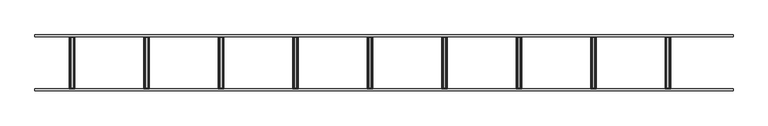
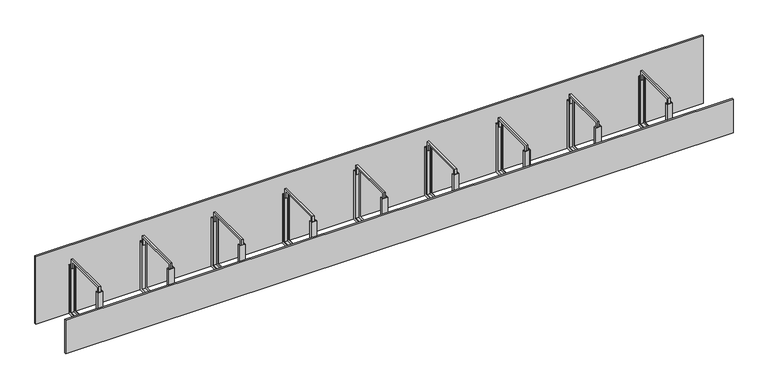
"""IFC4 building model written with IfcOpenShell, lengths in millimetres: proxy geometry, Betobeam ABM : -."""

from ifc_helpers import new_model, si_unit, frame, origin, origin_with_axes, place, context, project, spatial, polyline, outline, extrude, faceted_brep, source, transform, mapped, element, save


def generic_models_2878a8e8(model_context):
    return source(origin(), model_context, "Body", "SolidModel", [
        extrude(outline(polyline([(285.0, 320.0), (285.0, 270.0), (275.0, 270.0), (275.0, 310.0), (25.0, 310.0), (25.0, 270.0), (15.0, 270.0), (15.0, 320.0), (285.0, 320.0)])), frame((3395.0, 0.0, 0.0), z_axis=(1.0, 0.0, 0.0), x_axis=(0.0, 1.0, 0.0)), (0.0, 0.0, 1.0), 10.0),
        faceted_brep([(3385.0, 290.0, 290.0), (3385.0, 275.0, 290.0), (3387.0, 275.0, 290.0), (3387.0, 288.0, 290.0), (3413.0, 288.0, 290.0), (3413.0, 275.0, 290.0), (3415.0, 275.0, 290.0), (3415.0, 290.0, 290.0), (3385.0, 290.0, 0.0), (3385.0, 10.0, 0.0), (3385.0, 10.0, 290.0), (3385.0, 25.0, 290.0), (3385.0, 25.0, 15.0), (3385.0, 275.0, 15.0), (3387.0, 275.0, 15.0), (3387.0, 25.0, 15.0), (3387.0, 25.0, 290.0), (3387.0, 12.0, 290.0), (3387.0, 12.0, 2.0), (3387.0, 288.0, 2.0), (3413.0, 288.0, 2.0), (3413.0, 12.0, 2.0), (3413.0, 12.0, 290.0), (3413.0, 25.0, 290.0), (3413.0, 25.0, 15.0), (3413.0, 275.0, 15.0), (3415.0, 275.0, 15.0), (3415.0, 25.0, 15.0), (3415.0, 25.0, 290.0), (3415.0, 10.0, 290.0), (3415.0, 10.0, 0.0), (3415.0, 290.0, 0.0)], [[[0, 1, 2, 3, 4, 5, 6, 7]], [[1, 0, 8, 9, 10, 11, 12, 13]], [[2, 1, 13, 14]], [[3, 2, 14, 15, 16, 17, 18, 19]], [[4, 3, 19, 20]], [[5, 4, 20, 21, 22, 23, 24, 25]], [[6, 5, 25, 26]], [[7, 6, 26, 27, 28, 29, 30, 31]], [[0, 7, 31, 8]], [[14, 13, 12, 15]], [[20, 19, 18, 21]], [[26, 25, 24, 27]], [[8, 31, 30, 9]], [[10, 29, 28, 23, 22, 17, 16, 11]], [[15, 12, 11, 16]], [[21, 18, 17, 22]], [[27, 24, 23, 28]], [[9, 30, 29, 10]]]),
        extrude(outline(polyline([(285.0, 320.0), (285.0, 270.0), (275.0, 270.0), (275.0, 310.0), (25.0, 310.0), (25.0, 270.0), (15.0, 270.0), (15.0, 320.0), (285.0, 320.0)])), frame((2995.0, 0.0, 0.0), z_axis=(1.0, 0.0, 0.0), x_axis=(0.0, 1.0, 0.0)), (0.0, 0.0, 1.0), 10.0),
        faceted_brep([(2985.0, 290.0, 290.0), (2985.0, 275.0, 290.0), (2987.0, 275.0, 290.0), (2987.0, 288.0, 290.0), (3013.0, 288.0, 290.0), (3013.0, 275.0, 290.0), (3015.0, 275.0, 290.0), (3015.0, 290.0, 290.0), (2985.0, 290.0, 0.0), (2985.0, 10.0, 0.0), (2985.0, 10.0, 290.0), (2985.0, 25.0, 290.0), (2985.0, 25.0, 15.0), (2985.0, 275.0, 15.0), (2987.0, 275.0, 15.0), (2987.0, 25.0, 15.0), (2987.0, 25.0, 290.0), (2987.0, 12.0, 290.0), (2987.0, 12.0, 2.0), (2987.0, 288.0, 2.0), (3013.0, 288.0, 2.0), (3013.0, 12.0, 2.0), (3013.0, 12.0, 290.0), (3013.0, 25.0, 290.0), (3013.0, 25.0, 15.0), (3013.0, 275.0, 15.0), (3015.0, 275.0, 15.0), (3015.0, 25.0, 15.0), (3015.0, 25.0, 290.0), (3015.0, 10.0, 290.0), (3015.0, 10.0, 0.0), (3015.0, 290.0, 0.0)], [[[0, 1, 2, 3, 4, 5, 6, 7]], [[1, 0, 8, 9, 10, 11, 12, 13]], [[2, 1, 13, 14]], [[3, 2, 14, 15, 16, 17, 18, 19]], [[4, 3, 19, 20]], [[5, 4, 20, 21, 22, 23, 24, 25]], [[6, 5, 25, 26]], [[7, 6, 26, 27, 28, 29, 30, 31]], [[0, 7, 31, 8]], [[14, 13, 12, 15]], [[20, 19, 18, 21]], [[26, 25, 24, 27]], [[8, 31, 30, 9]], [[10, 29, 28, 23, 22, 17, 16, 11]], [[15, 12, 11, 16]], [[21, 18, 17, 22]], [[27, 24, 23, 28]], [[9, 30, 29, 10]]]),
        extrude(outline(polyline([(285.0, 320.0), (285.0, 270.0), (275.0, 270.0), (275.0, 310.0), (25.0, 310.0), (25.0, 270.0), (15.0, 270.0), (15.0, 320.0), (285.0, 320.0)])), frame((2595.0, 0.0, 0.0), z_axis=(1.0, 0.0, 0.0), x_axis=(0.0, 1.0, 0.0)), (0.0, 0.0, 1.0), 10.0),
        faceted_brep([(2585.0, 290.0, 290.0), (2585.0, 275.0, 290.0), (2587.0, 275.0, 290.0), (2587.0, 288.0, 290.0), (2613.0, 288.0, 290.0), (2613.0, 275.0, 290.0), (2615.0, 275.0, 290.0), (2615.0, 290.0, 290.0), (2585.0, 290.0, 0.0), (2585.0, 10.0, 0.0), (2585.0, 10.0, 290.0), (2585.0, 25.0, 290.0), (2585.0, 25.0, 15.0), (2585.0, 275.0, 15.0), (2587.0, 275.0, 15.0), (2587.0, 25.0, 15.0), (2587.0, 25.0, 290.0), (2587.0, 12.0, 290.0), (2587.0, 12.0, 2.0), (2587.0, 288.0, 2.0), (2613.0, 288.0, 2.0), (2613.0, 12.0, 2.0), (2613.0, 12.0, 290.0), (2613.0, 25.0, 290.0), (2613.0, 25.0, 15.0), (2613.0, 275.0, 15.0), (2615.0, 275.0, 15.0), (2615.0, 25.0, 15.0), (2615.0, 25.0, 290.0), (2615.0, 10.0, 290.0), (2615.0, 10.0, 0.0), (2615.0, 290.0, 0.0)], [[[0, 1, 2, 3, 4, 5, 6, 7]], [[1, 0, 8, 9, 10, 11, 12, 13]], [[2, 1, 13, 14]], [[3, 2, 14, 15, 16, 17, 18, 19]], [[4, 3, 19, 20]], [[5, 4, 20, 21, 22, 23, 24, 25]], [[6, 5, 25, 26]], [[7, 6, 26, 27, 28, 29, 30, 31]], [[0, 7, 31, 8]], [[14, 13, 12, 15]], [[20, 19, 18, 21]], [[26, 25, 24, 27]], [[8, 31, 30, 9]], [[10, 29, 28, 23, 22, 17, 16, 11]], [[15, 12, 11, 16]], [[21, 18, 17, 22]], [[27, 24, 23, 28]], [[9, 30, 29, 10]]]),
        extrude(outline(polyline([(285.0, 320.0), (285.0, 270.0), (275.0, 270.0), (275.0, 310.0), (25.0, 310.0), (25.0, 270.0), (15.0, 270.0), (15.0, 320.0), (285.0, 320.0)])), frame((2195.0, 0.0, 0.0), z_axis=(1.0, 0.0, 0.0), x_axis=(0.0, 1.0, 0.0)), (0.0, 0.0, 1.0), 10.0),
        faceted_brep([(2185.0, 290.0, 290.0), (2185.0, 275.0, 290.0), (2187.0, 275.0, 290.0), (2187.0, 288.0, 290.0), (2213.0, 288.0, 290.0), (2213.0, 275.0, 290.0), (2215.0, 275.0, 290.0), (2215.0, 290.0, 290.0), (2185.0, 290.0, 0.0), (2185.0, 10.0, 0.0), (2185.0, 10.0, 290.0), (2185.0, 25.0, 290.0), (2185.0, 25.0, 15.0), (2185.0, 275.0, 15.0), (2187.0, 275.0, 15.0), (2187.0, 25.0, 15.0), (2187.0, 25.0, 290.0), (2187.0, 12.0, 290.0), (2187.0, 12.0, 2.0), (2187.0, 288.0, 2.0), (2213.0, 288.0, 2.0), (2213.0, 12.0, 2.0), (2213.0, 12.0, 290.0), (2213.0, 25.0, 290.0), (2213.0, 25.0, 15.0), (2213.0, 275.0, 15.0), (2215.0, 275.0, 15.0), (2215.0, 25.0, 15.0), (2215.0, 25.0, 290.0), (2215.0, 10.0, 290.0), (2215.0, 10.0, 0.0), (2215.0, 290.0, 0.0)], [[[0, 1, 2, 3, 4, 5, 6, 7]], [[1, 0, 8, 9, 10, 11, 12, 13]], [[2, 1, 13, 14]], [[3, 2, 14, 15, 16, 17, 18, 19]], [[4, 3, 19, 20]], [[5, 4, 20, 21, 22, 23, 24, 25]], [[6, 5, 25, 26]], [[7, 6, 26, 27, 28, 29, 30, 31]], [[0, 7, 31, 8]], [[14, 13, 12, 15]], [[20, 19, 18, 21]], [[26, 25, 24, 27]], [[8, 31, 30, 9]], [[10, 29, 28, 23, 22, 17, 16, 11]], [[15, 12, 11, 16]], [[21, 18, 17, 22]], [[27, 24, 23, 28]], [[9, 30, 29, 10]]]),
        extrude(outline(polyline([(285.0, 320.0), (285.0, 270.0), (275.0, 270.0), (275.0, 310.0), (25.0, 310.0), (25.0, 270.0), (15.0, 270.0), (15.0, 320.0), (285.0, 320.0)])), frame((1795.0, 0.0, 0.0), z_axis=(1.0, 0.0, 0.0), x_axis=(0.0, 1.0, 0.0)), (0.0, 0.0, 1.0), 10.0),
        faceted_brep([(1785.0, 290.0, 290.0), (1785.0, 275.0, 290.0), (1787.0, 275.0, 290.0), (1787.0, 288.0, 290.0), (1813.0, 288.0, 290.0), (1813.0, 275.0, 290.0), (1815.0, 275.0, 290.0), (1815.0, 290.0, 290.0), (1785.0, 290.0, 0.0), (1785.0, 10.0, 0.0), (1785.0, 10.0, 290.0), (1785.0, 25.0, 290.0), (1785.0, 25.0, 15.0), (1785.0, 275.0, 15.0), (1787.0, 275.0, 15.0), (1787.0, 25.0, 15.0), (1787.0, 25.0, 290.0), (1787.0, 12.0, 290.0), (1787.0, 12.0, 2.0), (1787.0, 288.0, 2.0), (1813.0, 288.0, 2.0), (1813.0, 12.0, 2.0), (1813.0, 12.0, 290.0), (1813.0, 25.0, 290.0), (1813.0, 25.0, 15.0), (1813.0, 275.0, 15.0), (1815.0, 275.0, 15.0), (1815.0, 25.0, 15.0), (1815.0, 25.0, 290.0), (1815.0, 10.0, 290.0), (1815.0, 10.0, 0.0), (1815.0, 290.0, 0.0)], [[[0, 1, 2, 3, 4, 5, 6, 7]], [[1, 0, 8, 9, 10, 11, 12, 13]], [[2, 1, 13, 14]], [[3, 2, 14, 15, 16, 17, 18, 19]], [[4, 3, 19, 20]], [[5, 4, 20, 21, 22, 23, 24, 25]], [[6, 5, 25, 26]], [[7, 6, 26, 27, 28, 29, 30, 31]], [[0, 7, 31, 8]], [[14, 13, 12, 15]], [[20, 19, 18, 21]], [[26, 25, 24, 27]], [[8, 31, 30, 9]], [[10, 29, 28, 23, 22, 17, 16, 11]], [[15, 12, 11, 16]], [[21, 18, 17, 22]], [[27, 24, 23, 28]], [[9, 30, 29, 10]]]),
        extrude(outline(polyline([(285.0, 320.0), (285.0, 270.0), (275.0, 270.0), (275.0, 310.0), (25.0, 310.0), (25.0, 270.0), (15.0, 270.0), (15.0, 320.0), (285.0, 320.0)])), frame((1395.0, 0.0, 0.0), z_axis=(1.0, 0.0, 0.0), x_axis=(0.0, 1.0, 0.0)), (0.0, 0.0, 1.0), 10.0),
        faceted_brep([(1385.0, 290.0, 290.0), (1385.0, 275.0, 290.0), (1387.0, 275.0, 290.0), (1387.0, 288.0, 290.0), (1413.0, 288.0, 290.0), (1413.0, 275.0, 290.0), (1415.0, 275.0, 290.0), (1415.0, 290.0, 290.0), (1385.0, 290.0, 0.0), (1385.0, 10.0, 0.0), (1385.0, 10.0, 290.0), (1385.0, 25.0, 290.0), (1385.0, 25.0, 15.0), (1385.0, 275.0, 15.0), (1387.0, 275.0, 15.0), (1387.0, 25.0, 15.0), (1387.0, 25.0, 290.0), (1387.0, 12.0, 290.0), (1387.0, 12.0, 2.0), (1387.0, 288.0, 2.0), (1413.0, 288.0, 2.0), (1413.0, 12.0, 2.0), (1413.0, 12.0, 290.0), (1413.0, 25.0, 290.0), (1413.0, 25.0, 15.0), (1413.0, 275.0, 15.0), (1415.0, 275.0, 15.0), (1415.0, 25.0, 15.0), (1415.0, 25.0, 290.0), (1415.0, 10.0, 290.0), (1415.0, 10.0, 0.0), (1415.0, 290.0, 0.0)], [[[0, 1, 2, 3, 4, 5, 6, 7]], [[1, 0, 8, 9, 10, 11, 12, 13]], [[2, 1, 13, 14]], [[3, 2, 14, 15, 16, 17, 18, 19]], [[4, 3, 19, 20]], [[5, 4, 20, 21, 22, 23, 24, 25]], [[6, 5, 25, 26]], [[7, 6, 26, 27, 28, 29, 30, 31]], [[0, 7, 31, 8]], [[14, 13, 12, 15]], [[20, 19, 18, 21]], [[26, 25, 24, 27]], [[8, 31, 30, 9]], [[10, 29, 28, 23, 22, 17, 16, 11]], [[15, 12, 11, 16]], [[21, 18, 17, 22]], [[27, 24, 23, 28]], [[9, 30, 29, 10]]]),
        extrude(outline(polyline([(285.0, 320.0), (285.0, 270.0), (275.0, 270.0), (275.0, 310.0), (25.0, 310.0), (25.0, 270.0), (15.0, 270.0), (15.0, 320.0), (285.0, 320.0)])), frame((995.0, 0.0, 0.0), z_axis=(1.0, 0.0, 0.0), x_axis=(0.0, 1.0, 0.0)), (0.0, 0.0, 1.0), 10.0),
        faceted_brep([(985.0, 290.0, 290.0), (985.0, 275.0, 290.0), (987.0, 275.0, 290.0), (987.0, 288.0, 290.0), (1013.0, 288.0, 290.0), (1013.0, 275.0, 290.0), (1015.0, 275.0, 290.0), (1015.0, 290.0, 290.0), (985.0, 290.0, 0.0), (985.0, 10.0, 0.0), (985.0, 10.0, 290.0), (985.0, 25.0, 290.0), (985.0, 25.0, 15.0), (985.0, 275.0, 15.0), (987.0, 275.0, 15.0), (987.0, 25.0, 15.0), (987.0, 25.0, 290.0), (987.0, 12.0, 290.0), (987.0, 12.0, 2.0), (987.0, 288.0, 2.0), (1013.0, 288.0, 2.0), (1013.0, 12.0, 2.0), (1013.0, 12.0, 290.0), (1013.0, 25.0, 290.0), (1013.0, 25.0, 15.0), (1013.0, 275.0, 15.0), (1015.0, 275.0, 15.0), (1015.0, 25.0, 15.0), (1015.0, 25.0, 290.0), (1015.0, 10.0, 290.0), (1015.0, 10.0, 0.0), (1015.0, 290.0, 0.0)], [[[0, 1, 2, 3, 4, 5, 6, 7]], [[1, 0, 8, 9, 10, 11, 12, 13]], [[2, 1, 13, 14]], [[3, 2, 14, 15, 16, 17, 18, 19]], [[4, 3, 19, 20]], [[5, 4, 20, 21, 22, 23, 24, 25]], [[6, 5, 25, 26]], [[7, 6, 26, 27, 28, 29, 30, 31]], [[0, 7, 31, 8]], [[14, 13, 12, 15]], [[20, 19, 18, 21]], [[26, 25, 24, 27]], [[8, 31, 30, 9]], [[10, 29, 28, 23, 22, 17, 16, 11]], [[15, 12, 11, 16]], [[21, 18, 17, 22]], [[27, 24, 23, 28]], [[9, 30, 29, 10]]]),
        extrude(outline(polyline([(285.0, 320.0), (285.0, 270.0), (275.0, 270.0), (275.0, 310.0), (25.0, 310.0), (25.0, 270.0), (15.0, 270.0), (15.0, 320.0), (285.0, 320.0)])), frame((595.0, 0.0, 0.0), z_axis=(1.0, 0.0, 0.0), x_axis=(0.0, 1.0, 0.0)), (0.0, 0.0, 1.0), 10.0),
        faceted_brep([(585.0, 290.0, 290.0), (585.0, 275.0, 290.0), (587.0, 275.0, 290.0), (587.0, 288.0, 290.0), (613.0, 288.0, 290.0), (613.0, 275.0, 290.0), (615.0, 275.0, 290.0), (615.0, 290.0, 290.0), (585.0, 290.0, 0.0), (585.0, 10.0, 0.0), (585.0, 10.0, 290.0), (585.0, 25.0, 290.0), (585.0, 25.0, 15.0), (585.0, 275.0, 15.0), (587.0, 275.0, 15.0), (587.0, 25.0, 15.0), (587.0, 25.0, 290.0), (587.0, 12.0, 290.0), (587.0, 12.0, 2.0), (587.0, 288.0, 2.0), (613.0, 288.0, 2.0), (613.0, 12.0, 2.0), (613.0, 12.0, 290.0), (613.0, 25.0, 290.0), (613.0, 25.0, 15.0), (613.0, 275.0, 15.0), (615.0, 275.0, 15.0), (615.0, 25.0, 15.0), (615.0, 25.0, 290.0), (615.0, 10.0, 290.0), (615.0, 10.0, 0.0), (615.0, 290.0, 0.0)], [[[0, 1, 2, 3, 4, 5, 6, 7]], [[1, 0, 8, 9, 10, 11, 12, 13]], [[2, 1, 13, 14]], [[3, 2, 14, 15, 16, 17, 18, 19]], [[4, 3, 19, 20]], [[5, 4, 20, 21, 22, 23, 24, 25]], [[6, 5, 25, 26]], [[7, 6, 26, 27, 28, 29, 30, 31]], [[0, 7, 31, 8]], [[14, 13, 12, 15]], [[20, 19, 18, 21]], [[26, 25, 24, 27]], [[8, 31, 30, 9]], [[10, 29, 28, 23, 22, 17, 16, 11]], [[15, 12, 11, 16]], [[21, 18, 17, 22]], [[27, 24, 23, 28]], [[9, 30, 29, 10]]]),
        extrude(outline(polyline([(285.0, 320.0), (285.0, 270.0), (275.0, 270.0), (275.0, 310.0), (25.0, 310.0), (25.0, 270.0), (15.0, 270.0), (15.0, 320.0), (285.0, 320.0)])), frame((195.0, 0.0, 0.0), z_axis=(1.0, 0.0, 0.0), x_axis=(0.0, 1.0, 0.0)), (0.0, 0.0, 1.0), 10.0),
        faceted_brep([(185.0, 290.0, 290.0), (185.0, 275.0, 290.0), (187.0, 275.0, 290.0), (187.0, 288.0, 290.0), (213.0, 288.0, 290.0), (213.0, 275.0, 290.0), (215.0, 275.0, 290.0), (215.0, 290.0, 290.0), (185.0, 290.0, 0.0), (185.0, 10.0, 0.0), (185.0, 10.0, 290.0), (185.0, 25.0, 290.0), (185.0, 25.0, 15.0), (185.0, 275.0, 15.0), (187.0, 275.0, 15.0), (187.0, 25.0, 15.0), (187.0, 25.0, 290.0), (187.0, 12.0, 290.0), (187.0, 12.0, 2.0), (187.0, 288.0, 2.0), (213.0, 288.0, 2.0), (213.0, 12.0, 2.0), (213.0, 12.0, 290.0), (213.0, 25.0, 290.0), (213.0, 25.0, 15.0), (213.0, 275.0, 15.0), (215.0, 275.0, 15.0), (215.0, 25.0, 15.0), (215.0, 25.0, 290.0), (215.0, 10.0, 290.0), (215.0, 10.0, 0.0), (215.0, 290.0, 0.0)], [[[0, 1, 2, 3, 4, 5, 6, 7]], [[1, 0, 8, 9, 10, 11, 12, 13]], [[2, 1, 13, 14]], [[3, 2, 14, 15, 16, 17, 18, 19]], [[4, 3, 19, 20]], [[5, 4, 20, 21, 22, 23, 24, 25]], [[6, 5, 25, 26]], [[7, 6, 26, 27, 28, 29, 30, 31]], [[0, 7, 31, 8]], [[14, 13, 12, 15]], [[20, 19, 18, 21]], [[26, 25, 24, 27]], [[8, 31, 30, 9]], [[10, 29, 28, 23, 22, 17, 16, 11]], [[15, 12, 11, 16]], [[21, 18, 17, 22]], [[27, 24, 23, 28]], [[9, 30, 29, 10]]]),
        extrude(outline(polyline([(0.0, -10.0), (0.0, 0.0), (3750.0, 0.0), (3750.0, -10.0), (0.0, -10.0)])), frame((3750.0, 290.0, 0.0), z_axis=(0.0, -3.634372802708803e-12, 1.0), x_axis=(-1.0, 0.0, 0.0)), (0.0, 0.0, 1.0), 400.0),
        extrude(outline(polyline([(3750.0, 10.0), (3750.0, 0.0), (0.0, 0.0), (0.0, 10.0), (3750.0, 10.0)])), origin_with_axes(), (0.0, 0.0, 1.0), 200.0),
    ])


if __name__ == "__main__":
    model = new_model("IFC4")
    model_context = context("Model", 3, world=origin())
    ifc_project = project(units=[si_unit("LENGTHUNIT", "METRE", prefix="MILLI")], contexts=[model_context])
    site = spatial("IfcSite", under=ifc_project)
    building = spatial("IfcBuilding", under=site)
    placement = place(None, origin())
    generic_models_shape = generic_models_2878a8e8(model_context)
    element("IfcBuildingElementProxy", 1, Name="Betobeam ABM : -", ObjectType="Betobeam ABM : -", at=placement, inside=building, context=model_context, shape_type="MappedRepresentation", body=[
        mapped(generic_models_shape, transform((0.0, 0.0, 0.0), x_axis=(1.0, 0.0, 0.0), y_axis=(0.0, 1.0, 0.0), z_axis=(0.0, 0.0, 1.0))),
    ])
    save(model, "model.ifc")
